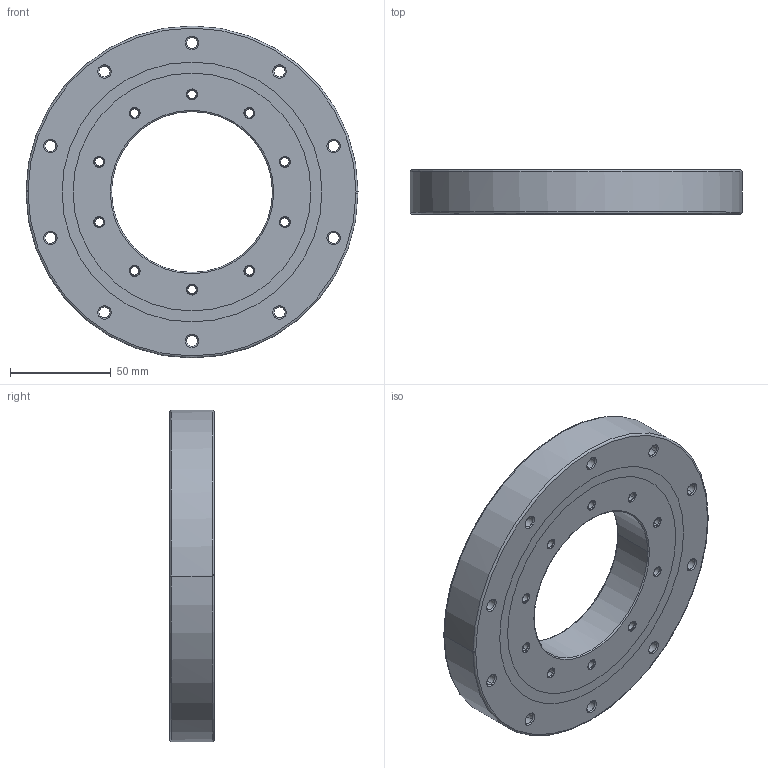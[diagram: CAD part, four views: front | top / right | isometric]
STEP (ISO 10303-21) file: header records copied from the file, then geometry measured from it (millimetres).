
FILE_DESCRIPTION(('no description'),'unknown implementation level');
FILE_NAME('CRBE08022A_54.stp',' ',('HIWIN GmbH'),('CADClick - KiM GmbH - www.kimweb.de'),'unknown preprocess','ACIS','unknown authorization');
FILE_SCHEMA(('automotive_design'));
Length unit declared in the file: millimetre
Products named in the file (24): CRBE08022A_1; CRBE08022A_2; CRBE08022A_3; CRBE08022A_4; CRBE08022A_5; CRBE08022A_6; CRBE08022A_7; CRBE08022A_8; CRBE08022A_9; CRBE08022A_10; CRBE08022A_11; CRBE08022A_12; CRBE08022A_13; CRBE08022A_14; CRBE08022A_15; CRBE08022A_16; CRBE08022A_17; CRBE08022A_18; CRBE08022A_19; CRBE08022A_20; CRBE08022A_21; CRBE08022A_22; CRBE08022A_23; CRBE08022A
Bounding box: 165 x 22 x 165 mm (x, y, z)
Volume: 305860.8 mm3; surface area: 81844.9 mm2
Topology: 4 solids, 24 shells, 290 faces, 748 edges, 496 vertices
Faces by surface type: cone 160, cylinder 96, plane 18, torus 16
Entity records: 17450 total; most frequent: DIRECTION 1848, CARTESIAN_POINT 1558, ORIENTED_EDGE 1416, STYLED_ITEM 1398, PRESENTATION_STYLE_ASSIGNMENT 1398, COLOUR_RGB 1398, AXIS2_PLACEMENT_3D 786, EDGE_CURVE 748
